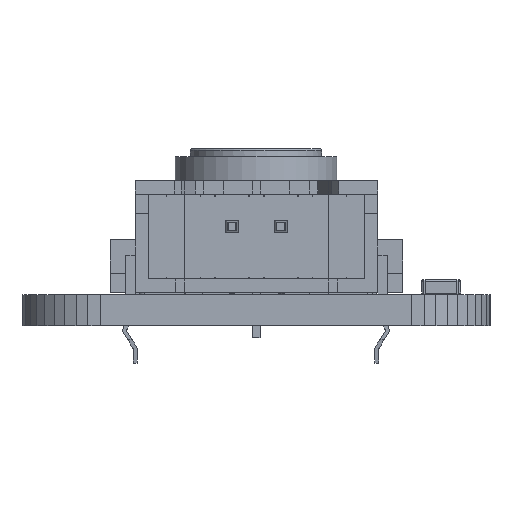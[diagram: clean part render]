
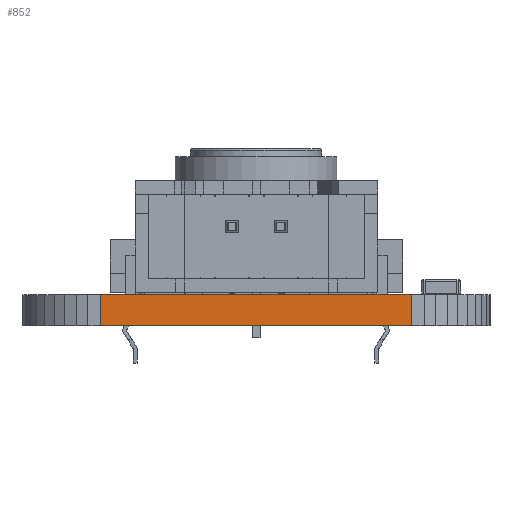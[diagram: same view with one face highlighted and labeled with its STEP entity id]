
A CAD part, front view. The second image highlights one B-rep face of the part: STEP entity #852.
In plain terms, the highlighted planar face has unit normal (-0.001, -1, 0).
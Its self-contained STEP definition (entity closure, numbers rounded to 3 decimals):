
#103 = PLANE('',#104);
#104 = AXIS2_PLACEMENT_3D('',#105,#106,#107);
#105 = CARTESIAN_POINT('',(-12.012,-7.,1.591));
#106 = DIRECTION('',(0.,0.,-1.));
#107 = DIRECTION('',(-1.,0.,0.));
#157 = PLANE('',#158);
#158 = AXIS2_PLACEMENT_3D('',#159,#160,#161);
#159 = CARTESIAN_POINT('',(-12.012,-7.,0.));
#160 = DIRECTION('',(0.,0.,-1.));
#161 = DIRECTION('',(-1.,0.,0.));
#744 = PLANE('',#745);
#745 = AXIS2_PLACEMENT_3D('',#746,#747,#748);
#746 = CARTESIAN_POINT('',(-8.628,-10.963,0.));
#747 = DIRECTION('',(0.059,0.998,0.));
#748 = DIRECTION('',(0.998,-0.059,0.));
#782 = VERTEX_POINT('',#783);
#783 = CARTESIAN_POINT('',(-8.,-11.,1.591));
#804 = EDGE_CURVE('',#805,#782,#807,.T.);
#805 = VERTEX_POINT('',#806);
#806 = CARTESIAN_POINT('',(-8.,-11.,0.));
#807 = SURFACE_CURVE('',#808,(#812,#819),.PCURVE_S1.);
#808 = LINE('',#809,#810);
#809 = CARTESIAN_POINT('',(-8.,-11.,0.));
#810 = VECTOR('',#811,1.);
#811 = DIRECTION('',(0.,0.,1.));
#812 = PCURVE('',#744,#813);
#813 = DEFINITIONAL_REPRESENTATION('',(#814),#818);
#814 = LINE('',#815,#816);
#815 = CARTESIAN_POINT('',(0.629,0.));
#816 = VECTOR('',#817,1.);
#817 = DIRECTION('',(0.,-1.));
#818 = ( GEOMETRIC_REPRESENTATION_CONTEXT(2) 
PARAMETRIC_REPRESENTATION_CONTEXT() REPRESENTATION_CONTEXT('2D SPACE',''
  ) );
#819 = PCURVE('',#820,#825);
#820 = PLANE('',#821);
#821 = AXIS2_PLACEMENT_3D('',#822,#823,#824);
#822 = CARTESIAN_POINT('',(-8.,-11.,0.));
#823 = DIRECTION('',(0.001,1.,0.));
#824 = DIRECTION('',(1.,-0.001,0.));
#825 = DEFINITIONAL_REPRESENTATION('',(#826),#830);
#826 = LINE('',#827,#828);
#827 = CARTESIAN_POINT('',(0.,0.));
#828 = VECTOR('',#829,1.);
#829 = DIRECTION('',(0.,-1.));
#830 = ( GEOMETRIC_REPRESENTATION_CONTEXT(2) 
PARAMETRIC_REPRESENTATION_CONTEXT() REPRESENTATION_CONTEXT('2D SPACE',''
  ) );
#852 = ADVANCED_FACE('',(#853),#820,.F.);
#853 = FACE_BOUND('',#854,.F.);
#854 = EDGE_LOOP('',(#855,#856,#879,#907));
#855 = ORIENTED_EDGE('',*,*,#804,.T.);
#856 = ORIENTED_EDGE('',*,*,#857,.T.);
#857 = EDGE_CURVE('',#782,#858,#860,.T.);
#858 = VERTEX_POINT('',#859);
#859 = CARTESIAN_POINT('',(8.,-11.012,1.591));
#860 = SURFACE_CURVE('',#861,(#865,#872),.PCURVE_S1.);
#861 = LINE('',#862,#863);
#862 = CARTESIAN_POINT('',(-8.,-11.,1.591));
#863 = VECTOR('',#864,1.);
#864 = DIRECTION('',(1.,-0.001,0.));
#865 = PCURVE('',#820,#866);
#866 = DEFINITIONAL_REPRESENTATION('',(#867),#871);
#867 = LINE('',#868,#869);
#868 = CARTESIAN_POINT('',(0.,-1.591));
#869 = VECTOR('',#870,1.);
#870 = DIRECTION('',(1.,0.));
#871 = ( GEOMETRIC_REPRESENTATION_CONTEXT(2) 
PARAMETRIC_REPRESENTATION_CONTEXT() REPRESENTATION_CONTEXT('2D SPACE',''
  ) );
#872 = PCURVE('',#103,#873);
#873 = DEFINITIONAL_REPRESENTATION('',(#874),#878);
#874 = LINE('',#875,#876);
#875 = CARTESIAN_POINT('',(-4.012,-4.));
#876 = VECTOR('',#877,1.);
#877 = DIRECTION('',(-1.,-0.001));
#878 = ( GEOMETRIC_REPRESENTATION_CONTEXT(2) 
PARAMETRIC_REPRESENTATION_CONTEXT() REPRESENTATION_CONTEXT('2D SPACE',''
  ) );
#879 = ORIENTED_EDGE('',*,*,#880,.F.);
#880 = EDGE_CURVE('',#881,#858,#883,.T.);
#881 = VERTEX_POINT('',#882);
#882 = CARTESIAN_POINT('',(8.,-11.012,0.));
#883 = SURFACE_CURVE('',#884,(#888,#895),.PCURVE_S1.);
#884 = LINE('',#885,#886);
#885 = CARTESIAN_POINT('',(8.,-11.012,0.));
#886 = VECTOR('',#887,1.);
#887 = DIRECTION('',(0.,0.,1.));
#888 = PCURVE('',#820,#889);
#889 = DEFINITIONAL_REPRESENTATION('',(#890),#894);
#890 = LINE('',#891,#892);
#891 = CARTESIAN_POINT('',(16.,0.));
#892 = VECTOR('',#893,1.);
#893 = DIRECTION('',(0.,-1.));
#894 = ( GEOMETRIC_REPRESENTATION_CONTEXT(2) 
PARAMETRIC_REPRESENTATION_CONTEXT() REPRESENTATION_CONTEXT('2D SPACE',''
  ) );
#895 = PCURVE('',#896,#901);
#896 = PLANE('',#897);
#897 = AXIS2_PLACEMENT_3D('',#898,#899,#900);
#898 = CARTESIAN_POINT('',(8.,-11.012,0.));
#899 = DIRECTION('',(-0.078,0.997,0.));
#900 = DIRECTION('',(0.997,0.078,0.));
#901 = DEFINITIONAL_REPRESENTATION('',(#902),#906);
#902 = LINE('',#903,#904);
#903 = CARTESIAN_POINT('',(0.,0.));
#904 = VECTOR('',#905,1.);
#905 = DIRECTION('',(0.,-1.));
#906 = ( GEOMETRIC_REPRESENTATION_CONTEXT(2) 
PARAMETRIC_REPRESENTATION_CONTEXT() REPRESENTATION_CONTEXT('2D SPACE',''
  ) );
#907 = ORIENTED_EDGE('',*,*,#908,.F.);
#908 = EDGE_CURVE('',#805,#881,#909,.T.);
#909 = SURFACE_CURVE('',#910,(#914,#921),.PCURVE_S1.);
#910 = LINE('',#911,#912);
#911 = CARTESIAN_POINT('',(-8.,-11.,0.));
#912 = VECTOR('',#913,1.);
#913 = DIRECTION('',(1.,-0.001,0.));
#914 = PCURVE('',#820,#915);
#915 = DEFINITIONAL_REPRESENTATION('',(#916),#920);
#916 = LINE('',#917,#918);
#917 = CARTESIAN_POINT('',(0.,0.));
#918 = VECTOR('',#919,1.);
#919 = DIRECTION('',(1.,0.));
#920 = ( GEOMETRIC_REPRESENTATION_CONTEXT(2) 
PARAMETRIC_REPRESENTATION_CONTEXT() REPRESENTATION_CONTEXT('2D SPACE',''
  ) );
#921 = PCURVE('',#157,#922);
#922 = DEFINITIONAL_REPRESENTATION('',(#923),#927);
#923 = LINE('',#924,#925);
#924 = CARTESIAN_POINT('',(-4.012,-4.));
#925 = VECTOR('',#926,1.);
#926 = DIRECTION('',(-1.,-0.001));
#927 = ( GEOMETRIC_REPRESENTATION_CONTEXT(2) 
PARAMETRIC_REPRESENTATION_CONTEXT() REPRESENTATION_CONTEXT('2D SPACE',''
  ) );
